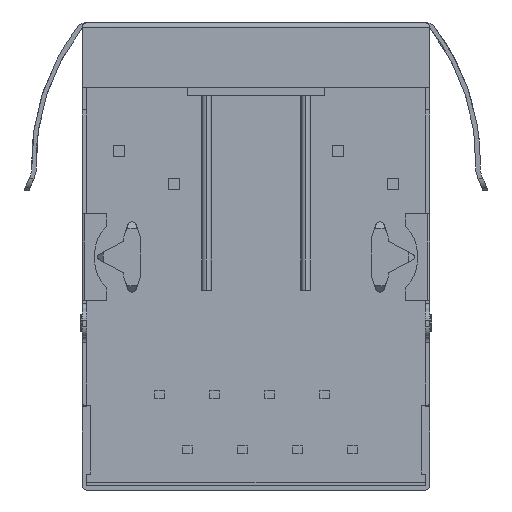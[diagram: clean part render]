
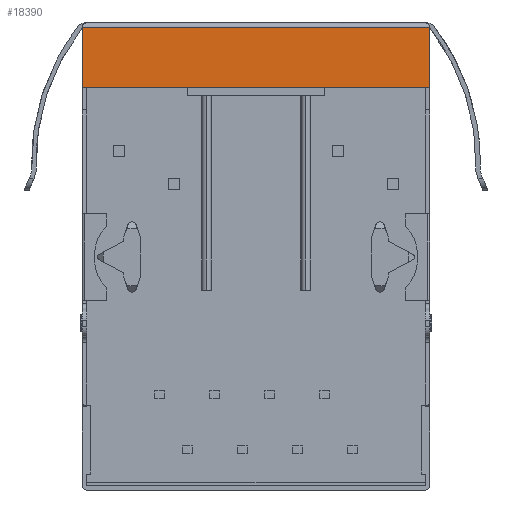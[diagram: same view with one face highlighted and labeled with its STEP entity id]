
A CAD part, front view. The second image highlights one B-rep face of the part: STEP entity #18390.
In plain terms, the highlighted planar face has unit normal (0, -1, 0).
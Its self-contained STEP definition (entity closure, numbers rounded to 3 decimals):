
#1355 = EDGE_CURVE ( 'NONE', #15618, #15619, #12797, .T. ) ;
#1362 = EDGE_CURVE ( 'NONE', #15614, #15626, #12822, .T. ) ;
#2247 = ORIENTED_EDGE ( 'NONE', *, *, #1362, .T. ) ;
#2249 = ORIENTED_EDGE ( 'NONE', *, *, #13566, .F. ) ;
#2251 = ORIENTED_EDGE ( 'NONE', *, *, #1355, .T. ) ;
#2253 = ORIENTED_EDGE ( 'NONE', *, *, #13567, .T. ) ;
#4912 = CARTESIAN_POINT ( 'NONE',  ( -8.014, -6.795, -2.743 ) ) ;
#4918 = CARTESIAN_POINT ( 'NONE',  ( -8.11, -6.795, 0.051 ) ) ;
#4920 = DIRECTION ( 'NONE',  ( 1., 0., 0. ) ) ;
#4921 = DIRECTION ( 'NONE',  ( 1., 0., 0. ) ) ;
#5902 = CARTESIAN_POINT ( 'NONE',  ( -8.014, -6.795, 0.051 ) ) ;
#5908 = DIRECTION ( 'NONE',  ( 0., 0., -1. ) ) ;
#5923 = CARTESIAN_POINT ( 'NONE',  ( 8.014, -6.795, 0.051 ) ) ;
#5924 = DIRECTION ( 'NONE',  ( 0., 0., 1. ) ) ;
#6855 = EDGE_LOOP ( 'NONE', ( #2247, #2249, #2251, #2253 ) ) ;
#9204 = PLANE ( 'NONE',  #23528 ) ;
#9214 = CARTESIAN_POINT ( 'NONE',  ( -8.014, -6.795, 0.051 ) ) ;
#9215 = DIRECTION ( 'NONE',  ( 0., -1., 0. ) ) ;
#9216 = DIRECTION ( 'NONE',  ( 0., 0., -1. ) ) ;
#10640 = CARTESIAN_POINT ( 'NONE',  ( 8.014, -6.795, -2.743 ) ) ;
#10644 = CARTESIAN_POINT ( 'NONE',  ( -8.014, -6.795, 0.051 ) ) ;
#10645 = CARTESIAN_POINT ( 'NONE',  ( -8.014, -6.795, -2.743 ) ) ;
#10652 = CARTESIAN_POINT ( 'NONE',  ( 8.014, -6.795, 0.051 ) ) ;
#12797 = LINE ( 'NONE', #5902, #12806 ) ;
#12806 = VECTOR ( 'NONE', #5908, 1000. ) ;
#12822 = LINE ( 'NONE', #5923, #12827 ) ;
#12827 = VECTOR ( 'NONE', #5924, 1000. ) ;
#13566 = EDGE_CURVE ( 'NONE', #15618, #15626, #19632, .T. ) ;
#13567 = EDGE_CURVE ( 'NONE', #15619, #15614, #19631, .T. ) ;
#15614 = VERTEX_POINT ( 'NONE', #10640 ) ;
#15618 = VERTEX_POINT ( 'NONE', #10644 ) ;
#15619 = VERTEX_POINT ( 'NONE', #10645 ) ;
#15626 = VERTEX_POINT ( 'NONE', #10652 ) ;
#18390 = ADVANCED_FACE ( 'NONE', ( #23105 ), #9204, .T. ) ;
#19631 = LINE ( 'NONE', #4912, #19637 ) ;
#19632 = LINE ( 'NONE', #4918, #19635 ) ;
#19635 = VECTOR ( 'NONE', #4920, 1000. ) ;
#19637 = VECTOR ( 'NONE', #4921, 1000. ) ;
#23105 = FACE_OUTER_BOUND ( 'NONE', #6855, .T. ) ;
#23528 = AXIS2_PLACEMENT_3D ( 'NONE', #9214, #9215, #9216 ) ;
